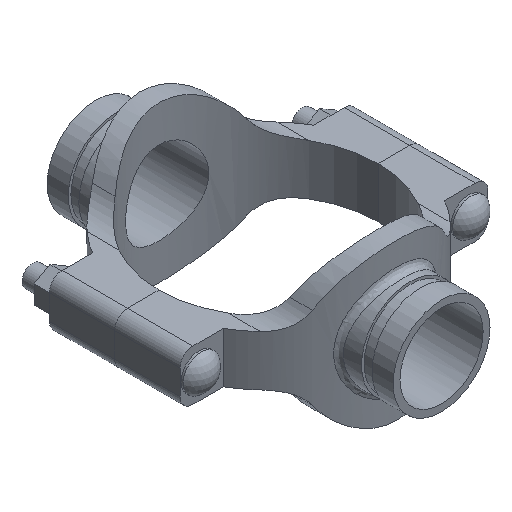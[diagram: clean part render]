
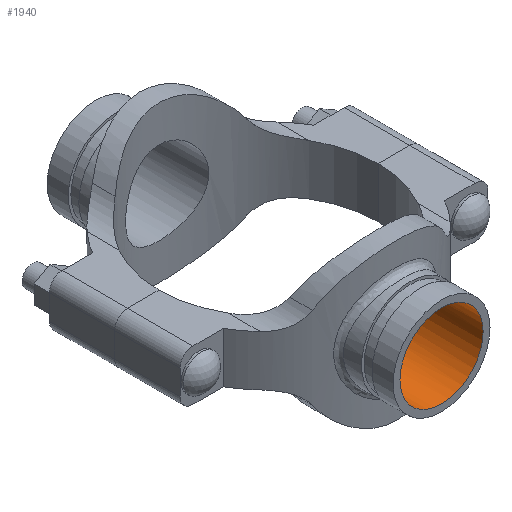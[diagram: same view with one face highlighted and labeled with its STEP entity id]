
A CAD part, isometric view. The second image highlights one B-rep face of the part: STEP entity #1940.
In plain terms, the highlighted cylindrical face has radius 31.356 mm (diameter 62.713 mm), a full revolution.
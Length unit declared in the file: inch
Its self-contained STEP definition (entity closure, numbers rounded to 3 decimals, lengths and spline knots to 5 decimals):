
#48=B_SPLINE_CURVE_WITH_KNOTS('',3,(#3972,#3973,#3974,#3975,#3976,#3977,
#3978,#3979,#3980,#3981,#3982,#3983,#3984,#3985,#3986,#3987,#3988,#3989,
#3990,#3991,#3992,#3993,#3994,#3995,#3996,#3997,#3998,#3999,#4000,#4001,
#4002,#4003,#4004,#4005,#4006,#4007,#4008,#4009,#4010,#4011,#4012,#4013,
#4014,#4015,#4016,#4017,#4018,#4019,#4020,#4021,#4022,#4023,#4024,#4025,
#4026,#4027,#4028,#4029,#4030,#4031,#4032,#4033,#4034,#4035,#4036,#4037),
 .UNSPECIFIED.,.T.,.F.,(4,2,2,2,2,2,2,2,2,2,2,2,2,2,2,2,2,2,2,2,2,2,2,2,
2,2,2,2,2,2,2,2,4),(0.,0.59737,1.19475,1.79212,
2.38949,2.98638,3.58327,4.18016,4.77705,
5.37394,5.97083,6.56772,7.16461,7.76199,
8.35936,8.95673,9.55411,10.15148,10.74885,
11.34623,11.9436,12.54049,13.13738,13.73427,
14.33116,14.92805,15.52494,16.12183,16.71872,
17.31609,17.91346,18.51084,19.10821),
 .UNSPECIFIED.);
#91=CYLINDRICAL_SURFACE('',#2173,1.2345);
#206=FACE_OUTER_BOUND('',#326,.T.);
#326=EDGE_LOOP('',(#1556,#1557,#1558,#1559));
#474=LINE('',#3971,#620);
#620=VECTOR('',#2628,1.2345);
#720=CIRCLE('',#2174,1.2345);
#881=VERTEX_POINT('',#3968);
#882=VERTEX_POINT('',#3970);
#1120=EDGE_CURVE('',#881,#881,#720,.T.);
#1121=EDGE_CURVE('',#881,#882,#474,.T.);
#1122=EDGE_CURVE('',#882,#882,#48,.T.);
#1556=ORIENTED_EDGE('',*,*,#1120,.F.);
#1557=ORIENTED_EDGE('',*,*,#1121,.T.);
#1558=ORIENTED_EDGE('',*,*,#1122,.F.);
#1559=ORIENTED_EDGE('',*,*,#1121,.F.);
#1940=ADVANCED_FACE('',(#206),#91,.F.);
#2173=AXIS2_PLACEMENT_3D('',#3967,#2624,#2625);
#2174=AXIS2_PLACEMENT_3D('',#3969,#2626,#2627);
#2624=DIRECTION('center_axis',(0.,-1.,0.));
#2625=DIRECTION('ref_axis',(-1.,0.,0.));
#2626=DIRECTION('center_axis',(0.,-1.,0.));
#2627=DIRECTION('ref_axis',(-1.,0.,0.));
#2628=DIRECTION('',(0.,-1.,0.));
#3967=CARTESIAN_POINT('Origin',(0.,5.13,0.));
#3968=CARTESIAN_POINT('',(1.2345,5.13,0.));
#3969=CARTESIAN_POINT('Origin',(0.,5.13,0.));
#3970=CARTESIAN_POINT('',(1.2345,3.00641,0.));
#3971=CARTESIAN_POINT('',(1.2345,5.13,0.));
#3972=CARTESIAN_POINT('Ctrl Pts',(1.2345,3.00641,0.));
#3973=CARTESIAN_POINT('Ctrl Pts',(1.2345,3.00641,-0.0784));
#3974=CARTESIAN_POINT('Ctrl Pts',(1.22691,3.00956,-0.15918));
#3975=CARTESIAN_POINT('Ctrl Pts',(1.19527,3.02227,-0.31933));
#3976=CARTESIAN_POINT('Ctrl Pts',(1.17123,3.03181,-0.3987));
#3977=CARTESIAN_POINT('Ctrl Pts',(1.10801,3.05548,-0.5505));
#3978=CARTESIAN_POINT('Ctrl Pts',(1.06879,3.0696,-0.62307));
#3979=CARTESIAN_POINT('Ctrl Pts',(0.97844,3.09958,-0.75708));
#3980=CARTESIAN_POINT('Ctrl Pts',(0.92731,3.11541,-0.81854));
#3981=CARTESIAN_POINT('Ctrl Pts',(0.81858,3.14573,-0.92727));
#3982=CARTESIAN_POINT('Ctrl Pts',(0.75715,3.16132,-0.97839));
#3983=CARTESIAN_POINT('Ctrl Pts',(0.62312,3.19044,-1.06876));
#3984=CARTESIAN_POINT('Ctrl Pts',(0.55052,3.20395,-1.10801));
#3985=CARTESIAN_POINT('Ctrl Pts',(0.39866,3.22637,-1.17125));
#3986=CARTESIAN_POINT('Ctrl Pts',(0.31926,3.23528,-1.19529));
#3987=CARTESIAN_POINT('Ctrl Pts',(0.15909,3.2471,-1.22692));
#3988=CARTESIAN_POINT('Ctrl Pts',(0.07833,3.25,-1.2345));
#3989=CARTESIAN_POINT('Ctrl Pts',(-0.07833,3.25,-1.2345));
#3990=CARTESIAN_POINT('Ctrl Pts',(-0.15909,3.2471,-1.22692));
#3991=CARTESIAN_POINT('Ctrl Pts',(-0.31926,3.23528,-1.19529));
#3992=CARTESIAN_POINT('Ctrl Pts',(-0.39866,3.22637,-1.17125));
#3993=CARTESIAN_POINT('Ctrl Pts',(-0.55052,3.20395,-1.10801));
#3994=CARTESIAN_POINT('Ctrl Pts',(-0.62312,3.19044,-1.06876));
#3995=CARTESIAN_POINT('Ctrl Pts',(-0.75715,3.16132,-0.97839));
#3996=CARTESIAN_POINT('Ctrl Pts',(-0.81858,3.14573,-0.92727));
#3997=CARTESIAN_POINT('Ctrl Pts',(-0.92731,3.11541,-0.81854));
#3998=CARTESIAN_POINT('Ctrl Pts',(-0.97844,3.09958,-0.75708));
#3999=CARTESIAN_POINT('Ctrl Pts',(-1.06879,3.0696,-0.62307));
#4000=CARTESIAN_POINT('Ctrl Pts',(-1.10801,3.05548,-0.5505));
#4001=CARTESIAN_POINT('Ctrl Pts',(-1.17123,3.03181,-0.3987));
#4002=CARTESIAN_POINT('Ctrl Pts',(-1.19527,3.02227,-0.31933));
#4003=CARTESIAN_POINT('Ctrl Pts',(-1.22691,3.00956,-0.15918));
#4004=CARTESIAN_POINT('Ctrl Pts',(-1.2345,3.00641,-0.0784));
#4005=CARTESIAN_POINT('Ctrl Pts',(-1.2345,3.00641,0.0784));
#4006=CARTESIAN_POINT('Ctrl Pts',(-1.22691,3.00956,0.15918));
#4007=CARTESIAN_POINT('Ctrl Pts',(-1.19527,3.02227,0.31933));
#4008=CARTESIAN_POINT('Ctrl Pts',(-1.17123,3.03181,0.3987));
#4009=CARTESIAN_POINT('Ctrl Pts',(-1.10801,3.05548,0.5505));
#4010=CARTESIAN_POINT('Ctrl Pts',(-1.06879,3.0696,0.62307));
#4011=CARTESIAN_POINT('Ctrl Pts',(-0.97844,3.09958,0.75708));
#4012=CARTESIAN_POINT('Ctrl Pts',(-0.92731,3.11541,0.81854));
#4013=CARTESIAN_POINT('Ctrl Pts',(-0.81858,3.14573,0.92727));
#4014=CARTESIAN_POINT('Ctrl Pts',(-0.75715,3.16132,0.97839));
#4015=CARTESIAN_POINT('Ctrl Pts',(-0.62312,3.19044,1.06876));
#4016=CARTESIAN_POINT('Ctrl Pts',(-0.55052,3.20395,1.10801));
#4017=CARTESIAN_POINT('Ctrl Pts',(-0.39866,3.22637,1.17125));
#4018=CARTESIAN_POINT('Ctrl Pts',(-0.31926,3.23528,1.19529));
#4019=CARTESIAN_POINT('Ctrl Pts',(-0.15909,3.2471,1.22692));
#4020=CARTESIAN_POINT('Ctrl Pts',(-0.07833,3.25,1.2345));
#4021=CARTESIAN_POINT('Ctrl Pts',(0.07833,3.25,1.2345));
#4022=CARTESIAN_POINT('Ctrl Pts',(0.15909,3.2471,1.22692));
#4023=CARTESIAN_POINT('Ctrl Pts',(0.31926,3.23528,1.19529));
#4024=CARTESIAN_POINT('Ctrl Pts',(0.39866,3.22637,1.17125));
#4025=CARTESIAN_POINT('Ctrl Pts',(0.55052,3.20395,1.10801));
#4026=CARTESIAN_POINT('Ctrl Pts',(0.62312,3.19044,1.06876));
#4027=CARTESIAN_POINT('Ctrl Pts',(0.75715,3.16132,0.97839));
#4028=CARTESIAN_POINT('Ctrl Pts',(0.81858,3.14573,0.92727));
#4029=CARTESIAN_POINT('Ctrl Pts',(0.92731,3.11541,0.81854));
#4030=CARTESIAN_POINT('Ctrl Pts',(0.97844,3.09958,0.75708));
#4031=CARTESIAN_POINT('Ctrl Pts',(1.06879,3.0696,0.62307));
#4032=CARTESIAN_POINT('Ctrl Pts',(1.10801,3.05548,0.5505));
#4033=CARTESIAN_POINT('Ctrl Pts',(1.17123,3.03181,0.3987));
#4034=CARTESIAN_POINT('Ctrl Pts',(1.19527,3.02227,0.31933));
#4035=CARTESIAN_POINT('Ctrl Pts',(1.22691,3.00956,0.15918));
#4036=CARTESIAN_POINT('Ctrl Pts',(1.2345,3.00641,0.0784));
#4037=CARTESIAN_POINT('Ctrl Pts',(1.2345,3.00641,0.));
